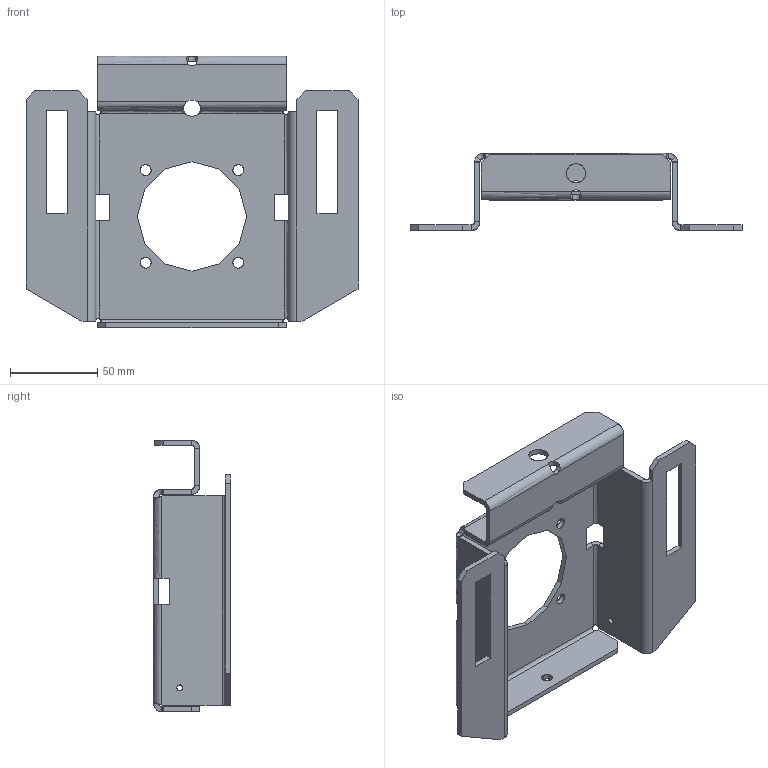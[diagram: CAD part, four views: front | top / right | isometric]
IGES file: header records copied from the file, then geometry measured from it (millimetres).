
Start section: SolidWorks IGES file using analytic representation for surfaces
Global section: file name: C:\PDF\庋.803-5-22.0.0.1.IGS,; native system: SolidWorks 2016; preprocessor: SolidWorks 2016; author: Diman; date: 210306.193709; units: millimetre
Bounding box: 190 x 44 x 155.5 mm (x, y, z)
Surface area: 80408.5 mm2 (no closed solid volume)
Topology: 0 solids, 0 shells, 184 faces, 1664 edges, 1664 vertices
Faces by surface type: bspline 130, revolution 54
